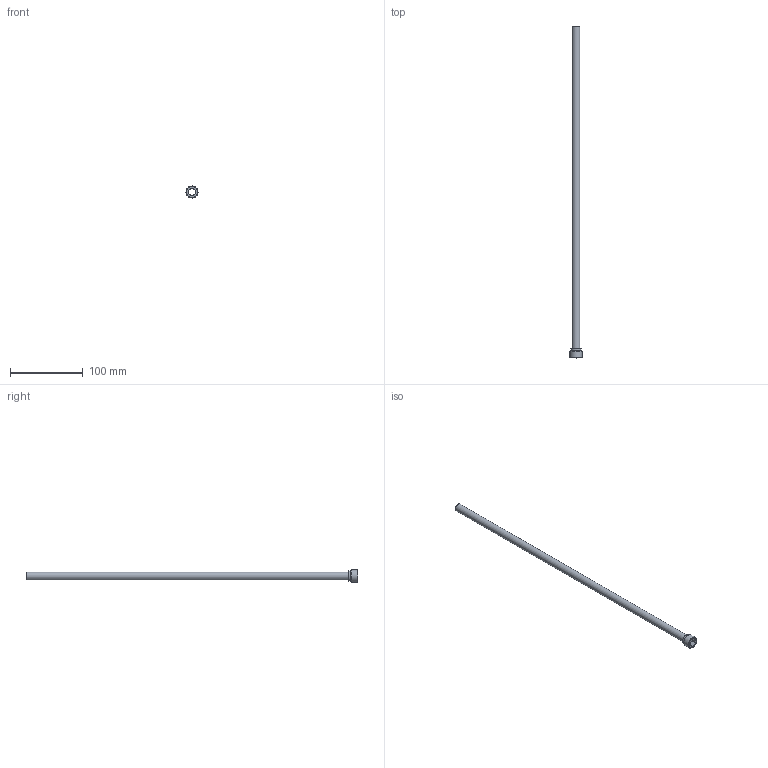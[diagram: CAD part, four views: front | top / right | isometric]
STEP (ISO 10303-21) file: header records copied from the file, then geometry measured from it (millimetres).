
FILE_DESCRIPTION(/* description */ (''),/* implementation_level */ '2;1');
FILE_NAME(/* name */ 'C:/Users/drich/Desktop/PT38-437-18 v1.step',/* time_stamp */ '2019-12-27T15:57:20-06:00',/* author */ (''),/* organization */ (''),/* preprocessor_version */ 'ST-DEVELOPER v18',/* originating_system */ 'Autodesk Translation Framework v8.12.0.6',/* authorisation */ '');
FILE_SCHEMA (('AUTOMOTIVE_DESIGN { 1 0 10303 214 3 1 1 }'));
Length unit declared in the file: inch
Products named in the file (1): PT38-437-18
Bounding box: 16.54 x 457.2 x 16.54 mm (x, y, z)
Volume: 6933.1 mm3; surface area: 30465.2 mm2
Topology: 1 solids, 1 shells, 30 faces, 71 edges, 45 vertices
Faces by surface type: plane 22, cylinder 4, torus 2, cone 2
Full cylindrical faces by diameter (mm): 10.084 x1, 10.82 x1, 13.868 x1, 16.537 x1
Entity records: 913 total; most frequent: DIRECTION 168, CARTESIAN_POINT 147, ORIENTED_EDGE 142, EDGE_CURVE 71, AXIS2_PLACEMENT_3D 66, VERTEX_POINT 45, LINE 36, VECTOR 36
